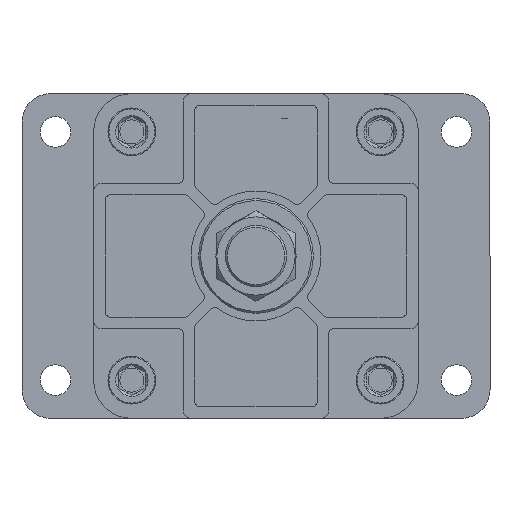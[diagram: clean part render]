
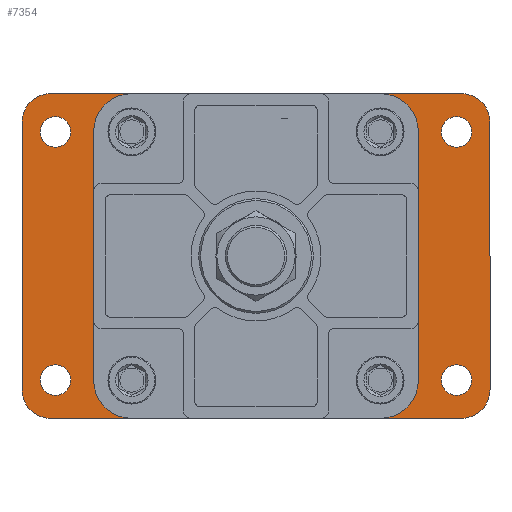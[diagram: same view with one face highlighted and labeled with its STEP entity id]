
A CAD part, front view. The second image highlights one B-rep face of the part: STEP entity #7354.
In plain terms, the highlighted planar face has unit normal (0, -1, 0) as drawn and (0, 1, 0) by its records, which use the part's own axes.
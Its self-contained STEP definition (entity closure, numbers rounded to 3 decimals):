
#648=LINE('',#11293,#1054);
#652=LINE('',#11302,#1058);
#656=LINE('',#11311,#1062);
#658=LINE('',#11315,#1064);
#1054=VECTOR('',#9557,1000.);
#1058=VECTOR('',#9563,1000.);
#1062=VECTOR('',#9569,1000.);
#1064=VECTOR('',#9573,1000.);
#2467=ORIENTED_EDGE('',*,*,#3246,.F.);
#2468=ORIENTED_EDGE('',*,*,#3247,.T.);
#2469=ORIENTED_EDGE('',*,*,#3248,.T.);
#2470=ORIENTED_EDGE('',*,*,#3249,.T.);
#2471=ORIENTED_EDGE('',*,*,#3250,.T.);
#2472=ORIENTED_EDGE('',*,*,#3251,.F.);
#2473=ORIENTED_EDGE('',*,*,#3252,.F.);
#2474=ORIENTED_EDGE('',*,*,#3253,.F.);
#2475=ORIENTED_EDGE('',*,*,#3254,.F.);
#2476=ORIENTED_EDGE('',*,*,#3219,.F.);
#2477=ORIENTED_EDGE('',*,*,#3255,.T.);
#2478=ORIENTED_EDGE('',*,*,#3229,.F.);
#2479=ORIENTED_EDGE('',*,*,#3256,.T.);
#2480=ORIENTED_EDGE('',*,*,#3227,.F.);
#2481=ORIENTED_EDGE('',*,*,#3257,.T.);
#2482=ORIENTED_EDGE('',*,*,#3223,.F.);
#2483=ORIENTED_EDGE('',*,*,#3258,.T.);
#3219=EDGE_CURVE('',#3744,#3745,#648,.T.);
#3223=EDGE_CURVE('',#3748,#3749,#652,.T.);
#3227=EDGE_CURVE('',#3752,#3753,#656,.T.);
#3229=EDGE_CURVE('',#3754,#3755,#658,.T.);
#3246=EDGE_CURVE('',#3767,#3767,#4060,.F.);
#3247=EDGE_CURVE('',#3768,#3768,#4061,.T.);
#3248=EDGE_CURVE('',#3769,#3769,#4062,.T.);
#3249=EDGE_CURVE('',#3770,#3770,#4063,.T.);
#3250=EDGE_CURVE('',#3771,#3771,#4064,.T.);
#3251=EDGE_CURVE('',#3772,#3772,#4065,.F.);
#3252=EDGE_CURVE('',#3773,#3773,#4066,.F.);
#3253=EDGE_CURVE('',#3774,#3774,#4067,.F.);
#3254=EDGE_CURVE('',#3775,#3775,#4068,.F.);
#3255=EDGE_CURVE('',#3744,#3755,#4069,.F.);
#3256=EDGE_CURVE('',#3754,#3753,#4070,.F.);
#3257=EDGE_CURVE('',#3752,#3749,#4071,.F.);
#3258=EDGE_CURVE('',#3748,#3745,#4072,.F.);
#3744=VERTEX_POINT('',#11292);
#3745=VERTEX_POINT('',#11294);
#3748=VERTEX_POINT('',#11301);
#3749=VERTEX_POINT('',#11303);
#3752=VERTEX_POINT('',#11310);
#3753=VERTEX_POINT('',#11312);
#3754=VERTEX_POINT('',#11316);
#3755=VERTEX_POINT('',#11317);
#3767=VERTEX_POINT('',#11348);
#3768=VERTEX_POINT('',#11350);
#3769=VERTEX_POINT('',#11352);
#3770=VERTEX_POINT('',#11354);
#3771=VERTEX_POINT('',#11356);
#3772=VERTEX_POINT('',#11358);
#3773=VERTEX_POINT('',#11360);
#3774=VERTEX_POINT('',#11362);
#3775=VERTEX_POINT('',#11364);
#4060=CIRCLE('',#7990,31.5);
#4061=CIRCLE('',#7991,7.5);
#4062=CIRCLE('',#7992,7.5);
#4063=CIRCLE('',#7993,7.5);
#4064=CIRCLE('',#7994,7.5);
#4065=CIRCLE('',#7995,8.);
#4066=CIRCLE('',#7996,8.);
#4067=CIRCLE('',#7997,8.);
#4068=CIRCLE('',#7998,8.);
#4069=CIRCLE('',#7999,15.);
#4070=CIRCLE('',#8000,15.);
#4071=CIRCLE('',#8001,15.);
#4072=CIRCLE('',#8002,15.);
#4477=EDGE_LOOP('',(#2467));
#4478=EDGE_LOOP('',(#2468));
#4479=EDGE_LOOP('',(#2469));
#4480=EDGE_LOOP('',(#2470));
#4481=EDGE_LOOP('',(#2471));
#4482=EDGE_LOOP('',(#2472));
#4483=EDGE_LOOP('',(#2473));
#4484=EDGE_LOOP('',(#2474));
#4485=EDGE_LOOP('',(#2475));
#4486=EDGE_LOOP('',(#2476,#2477,#2478,#2479,#2480,#2481,#2482,#2483));
#4921=FACE_BOUND('',#4477,.T.);
#4922=FACE_BOUND('',#4478,.T.);
#4923=FACE_BOUND('',#4479,.T.);
#4924=FACE_BOUND('',#4480,.T.);
#4925=FACE_BOUND('',#4481,.T.);
#4926=FACE_BOUND('',#4482,.T.);
#4927=FACE_BOUND('',#4483,.T.);
#4928=FACE_BOUND('',#4484,.T.);
#4929=FACE_BOUND('',#4485,.T.);
#4930=FACE_BOUND('',#4486,.T.);
#5127=PLANE('',#7989);
#7354=ADVANCED_FACE('',(#4921,#4922,#4923,#4924,#4925,#4926,#4927,#4928,
#4929,#4930),#5127,.F.);
#7989=AXIS2_PLACEMENT_3D('',#11346,#9605,#9606);
#7990=AXIS2_PLACEMENT_3D('',#11347,#9607,#9608);
#7991=AXIS2_PLACEMENT_3D('',#11349,#9609,#9610);
#7992=AXIS2_PLACEMENT_3D('',#11351,#9611,#9612);
#7993=AXIS2_PLACEMENT_3D('',#11353,#9613,#9614);
#7994=AXIS2_PLACEMENT_3D('',#11355,#9615,#9616);
#7995=AXIS2_PLACEMENT_3D('',#11357,#9617,#9618);
#7996=AXIS2_PLACEMENT_3D('',#11359,#9619,#9620);
#7997=AXIS2_PLACEMENT_3D('',#11361,#9621,#9622);
#7998=AXIS2_PLACEMENT_3D('',#11363,#9623,#9624);
#7999=AXIS2_PLACEMENT_3D('',#11365,#9625,#9626);
#8000=AXIS2_PLACEMENT_3D('',#11366,#9627,#9628);
#8001=AXIS2_PLACEMENT_3D('',#11367,#9629,#9630);
#8002=AXIS2_PLACEMENT_3D('',#11368,#9631,#9632);
#9557=DIRECTION('',(0.,0.,-1.));
#9563=DIRECTION('',(1.,0.,0.));
#9569=DIRECTION('',(0.,0.,1.));
#9573=DIRECTION('',(-1.,0.,0.));
#9605=DIRECTION('',(0.,-1.,0.));
#9606=DIRECTION('',(0.,0.,-1.));
#9607=DIRECTION('',(0.,-1.,0.));
#9608=DIRECTION('',(0.,0.,-1.));
#9609=DIRECTION('',(0.,-1.,0.));
#9610=DIRECTION('',(0.,0.,-1.));
#9611=DIRECTION('',(0.,-1.,0.));
#9612=DIRECTION('',(0.,0.,-1.));
#9613=DIRECTION('',(0.,-1.,0.));
#9614=DIRECTION('',(0.,0.,-1.));
#9615=DIRECTION('',(0.,-1.,0.));
#9616=DIRECTION('',(0.,0.,-1.));
#9617=DIRECTION('',(0.,-1.,0.));
#9618=DIRECTION('',(0.,0.,-1.));
#9619=DIRECTION('',(0.,-1.,0.));
#9620=DIRECTION('',(0.,0.,-1.));
#9621=DIRECTION('',(0.,-1.,0.));
#9622=DIRECTION('',(0.,0.,-1.));
#9623=DIRECTION('',(0.,-1.,0.));
#9624=DIRECTION('',(0.,0.,-1.));
#9625=DIRECTION('',(0.,-1.,0.));
#9626=DIRECTION('',(0.,0.,-1.));
#9627=DIRECTION('',(0.,-1.,0.));
#9628=DIRECTION('',(0.,0.,-1.));
#9629=DIRECTION('',(0.,-1.,0.));
#9630=DIRECTION('',(0.,0.,-1.));
#9631=DIRECTION('',(0.,-1.,0.));
#9632=DIRECTION('',(0.,0.,-1.));
#11292=CARTESIAN_POINT('',(-122.5,0.,70.));
#11293=CARTESIAN_POINT('',(-122.5,0.,28.));
#11294=CARTESIAN_POINT('',(-122.5,0.,-70.));
#11301=CARTESIAN_POINT('',(-107.5,0.,-85.));
#11302=CARTESIAN_POINT('',(-43.,0.,-85.));
#11303=CARTESIAN_POINT('',(107.5,0.,-85.));
#11310=CARTESIAN_POINT('',(122.5,0.,-70.));
#11311=CARTESIAN_POINT('',(122.5,0.,-28.));
#11312=CARTESIAN_POINT('',(122.5,0.,70.));
#11315=CARTESIAN_POINT('',(43.,0.,85.));
#11316=CARTESIAN_POINT('',(107.5,0.,85.));
#11317=CARTESIAN_POINT('',(-107.5,0.,85.));
#11346=CARTESIAN_POINT('',(0.,0.,0.));
#11347=CARTESIAN_POINT('',(0.,0.,0.));
#11348=CARTESIAN_POINT('',(0.,0.,-31.5));
#11349=CARTESIAN_POINT('',(-65.,0.,-65.));
#11350=CARTESIAN_POINT('',(-65.,0.,-72.5));
#11351=CARTESIAN_POINT('',(65.,0.,-65.));
#11352=CARTESIAN_POINT('',(65.,0.,-72.5));
#11353=CARTESIAN_POINT('',(65.,0.,65.));
#11354=CARTESIAN_POINT('',(65.,0.,57.5));
#11355=CARTESIAN_POINT('',(-65.,0.,65.));
#11356=CARTESIAN_POINT('',(-65.,0.,57.5));
#11357=CARTESIAN_POINT('',(105.,0.,-65.));
#11358=CARTESIAN_POINT('',(105.,0.,-73.));
#11359=CARTESIAN_POINT('',(-105.,0.,-65.));
#11360=CARTESIAN_POINT('',(-105.,0.,-73.));
#11361=CARTESIAN_POINT('',(-105.,0.,65.));
#11362=CARTESIAN_POINT('',(-105.,0.,57.));
#11363=CARTESIAN_POINT('',(105.,0.,65.));
#11364=CARTESIAN_POINT('',(105.,0.,57.));
#11365=CARTESIAN_POINT('',(-107.5,0.,70.));
#11366=CARTESIAN_POINT('',(107.5,0.,70.));
#11367=CARTESIAN_POINT('',(107.5,0.,-70.));
#11368=CARTESIAN_POINT('',(-107.5,0.,-70.));
